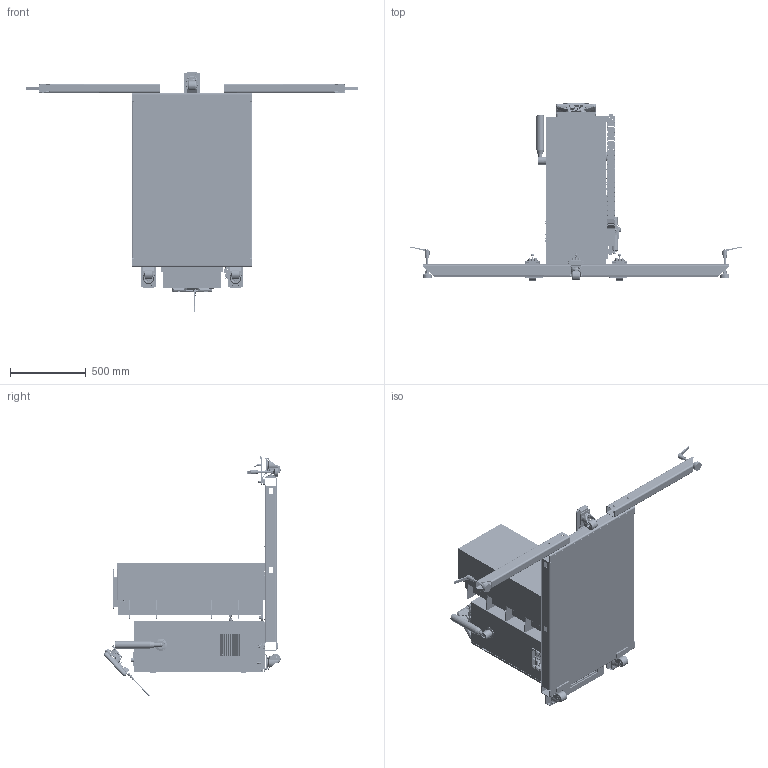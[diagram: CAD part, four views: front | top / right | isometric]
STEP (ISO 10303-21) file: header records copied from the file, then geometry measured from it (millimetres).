
FILE_DESCRIPTION (( 'STEP AP203' ), '1' );
FILE_NAME ('生态套件-码垛工作站-升降柱组件.STEP', '2024-11-08T07:48:21', ( '' ), ( '' ), 'SwSTEP 2.0', 'SolidWorks 2018', '' );
FILE_SCHEMA (( 'CONFIG_CONTROL_DESIGN' ));
Products named in the file (1): 生态套件-码垛工作站-升降柱组件
Bounding box: 2198 x 1173.34 x 1593.92 mm (x, y, z)
Surface area: 13767385.3 mm2 (no closed solid volume)
Topology: 0 solids, 820 shells, 2991 faces, 15800 edges, 13209 vertices
Faces by surface type: plane 1653, cylinder 857, bspline 270, cone 121, torus 68, sphere 22
Entity records: 236374 total; most frequent: CARTESIAN_POINT 118586, DIRECTION 22861, ORIENTED_EDGE 19701, EDGE_CURVE 15778, VERTEX_POINT 13204, VECTOR 9421, LINE 9421, AXIS2_PLACEMENT_3D 6720
